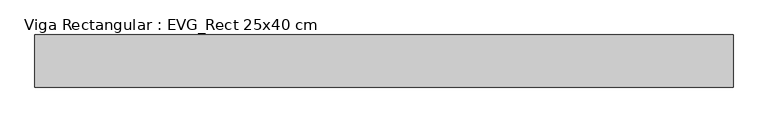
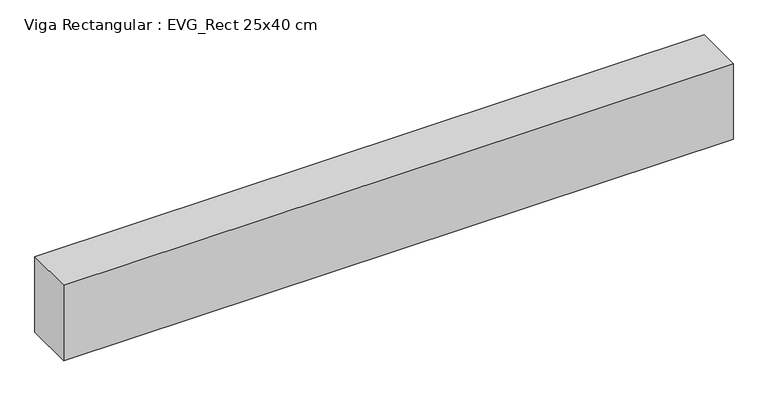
"""IFC4 building model written with IfcOpenShell, lengths in millimetres: beam geometry, Viga Rectangular : EVG_Rect 25x40 cm."""

from ifc_helpers import new_model, si_unit, frame, origin, place, context, project, spatial, polyline, outline, extrude, source, transform, mapped, element, save


def viga_rectangular_evg_rect_25x40_cm_c621c72f(model_context):
    return source(origin(), model_context, "Body", "SweptSolid", [
        extrude(outline(polyline([(1712.5, 125.0), (1712.5, -125.0), (-1637.5, -125.0), (-1637.5, 125.0), (1712.5, 125.0)])), frame((0.0, 0.0, -400.0), z_axis=(0.0, 0.0, 1.0), x_axis=(1.0, 0.0, 0.0)), (0.0, 0.0, 1.0), 400.0),
    ])


if __name__ == "__main__":
    model = new_model("IFC4")
    model_context = context("Model", 3, world=origin())
    ifc_project = project(units=[si_unit("LENGTHUNIT", "METRE", prefix="MILLI")], contexts=[model_context])
    site = spatial("IfcSite", under=ifc_project)
    building = spatial("IfcBuilding", under=site)
    placement = place(None, origin())
    viga_rectangular_evg_rect_25x40_cm_shape = viga_rectangular_evg_rect_25x40_cm_c621c72f(model_context)
    element("IfcBeam", 1, ObjectType="Viga Rectangular : EVG_Rect 25x40 cm", at=placement, inside=building, context=model_context, shape_type="MappedRepresentation", body=[
        mapped(viga_rectangular_evg_rect_25x40_cm_shape, transform((0.0, 0.0, 0.0), x_axis=(1.0, 0.0, 0.0), y_axis=(0.0, 1.0, 0.0), z_axis=(0.0, 0.0, 1.0))),
    ])
    save(model, "model.ifc")
